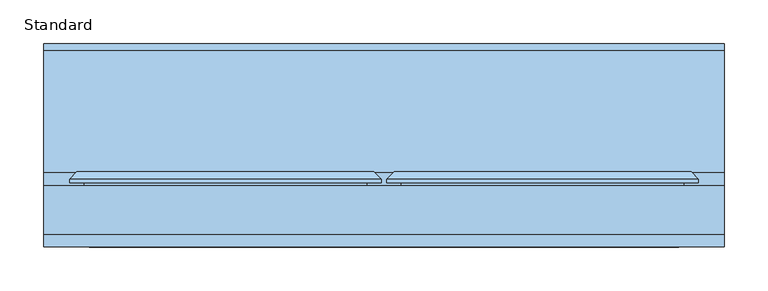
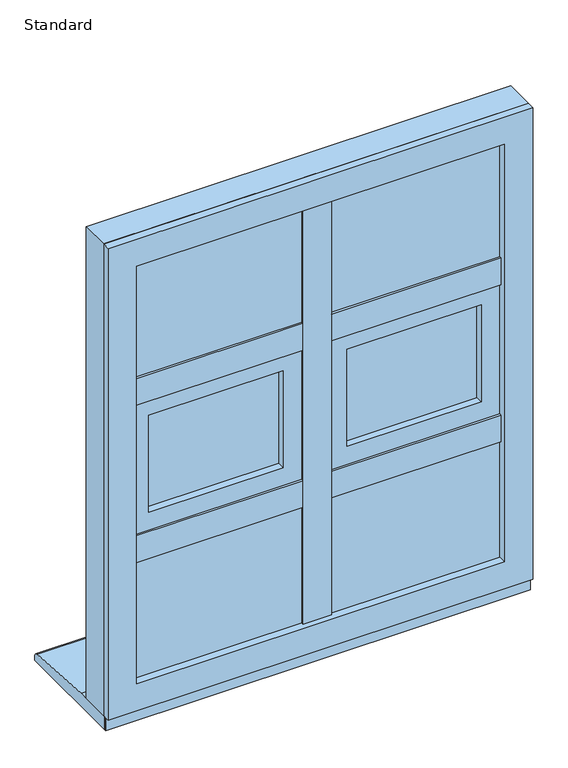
"""IFC4 building model written with IfcOpenShell, lengths in millimetres: window geometry, SMARTS_Alitherm600 : Standard."""

from ifc_helpers import new_model, si_unit, point, frame, frame_2d, origin, place, context, project, spatial, polyline, circle_curve, trimmed, segment, composite_curve, outline, extrude, faceted_brep, source, transform, mapped, element, save


def standard_ae2f9f8e(model_context):
    return source(origin(), model_context, "Body", "SolidModel", [
        extrude(outline(polyline([(-9.4, 102.8298432), (9.4, 102.8298432), (9.4, 47.2458572), (-9.4, 47.2458572), (-9.4, 102.8298432)])), frame((0.0, 0.0, 670.8979117), z_axis=(0.0, 0.0, 1.0), x_axis=(1.0, 0.0, 0.0)), (0.0, 0.0, 1.0), 843.2041766),
        extrude(outline(polyline([(-25.9020883, 47.2458572), (25.9020883, 47.2458572), (25.9020883, 43.2798432), (-25.9020883, 43.2798432), (-25.9020883, 47.2458572)])), frame((0.0, 0.0, 687.4), z_axis=(0.0, 0.0, 1.0), x_axis=(1.0, 0.0, 0.0)), (0.0, 0.0, 1.0), 810.2),
        extrude(outline(polyline([(-9.4979117, 102.8298432), (-9.4979117, 47.2458572), (-354.1020883, 47.2458572), (-354.1020883, 102.8298432), (-9.4979117, 102.8298432)])), frame((0.0, 0.0, 930.6), z_axis=(0.0, 0.0, 1.0), x_axis=(1.0, 0.0, 0.0)), (0.0, 0.0, 1.0), 18.8),
        extrude(outline(polyline([(-26.0, 47.2458572), (-26.0, 43.2798432), (-337.6, 43.2798432), (-337.6, 47.2458572), (-26.0, 47.2458572)])), frame((0.0, 0.0, 914.0979117), z_axis=(0.0, 0.0, 1.0), x_axis=(1.0, 0.0, 0.0)), (0.0, 0.0, 1.0), 51.8041766),
        extrude(outline(polyline([(-9.4979117, 102.8298432), (-9.4979117, 47.2458572), (-354.1020883, 47.2458572), (-354.1020883, 102.8298432), (-9.4979117, 102.8298432)])), frame((0.0, 0.0, 1235.6), z_axis=(0.0, 0.0, 1.0), x_axis=(1.0, 0.0, 0.0)), (0.0, 0.0, 1.0), 18.8),
        extrude(outline(polyline([(-26.0, 47.2458572), (-26.0, 43.2798432), (-337.6, 43.2798432), (-337.6, 47.2458572), (-26.0, 47.2458572)])), frame((0.0, 0.0, 1219.0979117), z_axis=(0.0, 0.0, 1.0), x_axis=(1.0, 0.0, 0.0)), (0.0, 0.0, 1.0), 51.8041766),
        extrude(outline(polyline([(354.1020883, 102.8298432), (354.1020883, 47.2458572), (9.4979117, 47.2458572), (9.4979117, 102.8298432), (354.1020883, 102.8298432)])), frame((0.0, 0.0, 930.6), z_axis=(0.0, 0.0, 1.0), x_axis=(1.0, 0.0, 0.0)), (0.0, 0.0, 1.0), 18.8),
        extrude(outline(polyline([(337.6, 47.2458572), (337.6, 43.2798432), (26.0, 43.2798432), (26.0, 47.2458572), (337.6, 47.2458572)])), frame((0.0, 0.0, 914.0979117), z_axis=(0.0, 0.0, 1.0), x_axis=(1.0, 0.0, 0.0)), (0.0, 0.0, 1.0), 51.8041766),
        extrude(outline(polyline([(354.1020883, 102.8298432), (354.1020883, 47.2458572), (9.4979117, 47.2458572), (9.4979117, 102.8298432), (354.1020883, 102.8298432)])), frame((0.0, 0.0, 1235.6), z_axis=(0.0, 0.0, 1.0), x_axis=(1.0, 0.0, 0.0)), (0.0, 0.0, 1.0), 18.8),
        extrude(outline(polyline([(337.6, 47.2458572), (337.6, 43.2798432), (26.0, 43.2798432), (26.0, 47.2458572), (337.6, 47.2458572)])), frame((0.0, 0.0, 1219.0979117), z_axis=(0.0, 0.0, 1.0), x_axis=(1.0, 0.0, 0.0)), (0.0, 0.0, 1.0), 51.8041766),
        extrude(outline(polyline([(-352.6, 77.7798432), (-11.0, 77.7798432), (-11.0, 73.7798432), (-352.6, 73.7798432), (-352.6, 77.7798432)])), frame((0.0, 0.0, 672.4), z_axis=(0.0, 0.0, 1.0), x_axis=(1.0, 0.0, 0.0)), (0.0, 0.0, 1.0), 256.6),
        extrude(outline(polyline([(-352.6, 57.7798432), (-11.0, 57.7798432), (-11.0, 53.7798432), (-352.6, 53.7798432), (-352.6, 57.7798432)])), frame((0.0, 0.0, 672.4), z_axis=(0.0, 0.0, 1.0), x_axis=(1.0, 0.0, 0.0)), (0.0, 0.0, 1.0), 256.6),
        extrude(outline(polyline([(929.0, -352.6), (672.4, -352.6), (672.4, -11.0), (929.0, -11.0), (929.0, -352.6)]), holes=[polyline([(919.0, -21.0), (682.4, -21.0), (682.4, -342.6), (919.0, -342.6), (919.0, -21.0)])]), frame((0.0, 57.7798432, 0.0), z_axis=(0.0, 1.0, 0.0), x_axis=(0.0, 0.0, 1.0)), (0.0, 0.0, 1.0), 16.0),
        faceted_brep([(-349.4160653, 102.7798432, 925.8160653), (-337.2339746, 81.6798432, 913.6339746), (-337.2339746, 81.6798432, 687.7660254), (-349.4160653, 102.7798432, 675.5839347), (-26.3660254, 81.6798432, 687.7660254), (-14.1839347, 102.7798432, 675.5839347), (-26.3660254, 81.6798432, 913.6339746), (-14.1839347, 102.7798432, 925.8160653), (-9.5, 81.6798432, 930.5), (-9.5, 102.7798432, 930.5), (-354.1, 102.7798432, 930.5), (-354.1, 81.6798432, 930.5), (-354.1, 102.7798432, 670.9), (-354.1, 81.6798432, 670.9), (-9.5, 102.7798432, 670.9), (-9.5, 81.6798432, 670.9)], [[[0, 1, 2, 3]], [[3, 2, 4, 5]], [[5, 4, 6, 7]], [[7, 6, 1, 0]], [[8, 9, 10, 11]], [[11, 10, 12, 13]], [[13, 12, 14, 15]], [[9, 14, 12, 10], [0, 3, 5, 7]], [[15, 14, 9, 8]], [[11, 13, 15, 8], [6, 4, 2, 1]]]),
        extrude(outline(polyline([(1198.0, -316.6), (987.0, -316.6), (987.0, -47.0), (1198.0, -47.0), (1198.0, -316.6)]), holes=[polyline([(1188.0, -57.0), (997.0, -57.0), (997.0, -306.6), (1188.0, -306.6), (1188.0, -57.0)])]), frame((0.0, 72.3211351, 0.0), z_axis=(0.0, 1.0, 0.0), x_axis=(0.0, 0.0, 1.0)), (0.0, 0.0, 1.0), 16.0),
        extrude(outline(polyline([(-316.6, 92.3211351), (-47.0, 92.3211351), (-47.0, 88.3211351), (-316.6, 88.3211351), (-316.6, 92.3211351)])), frame((0.0, 0.0, 987.0), z_axis=(0.0, 0.0, 1.0), x_axis=(1.0, 0.0, 0.0)), (0.0, 0.0, 1.0), 211.0),
        extrude(outline(polyline([(-316.6, 72.3211351), (-47.0, 72.3211351), (-47.0, 68.3211351), (-316.6, 68.3211351), (-316.6, 72.3211351)])), frame((0.0, 0.0, 987.0), z_axis=(0.0, 0.0, 1.0), x_axis=(1.0, 0.0, 0.0)), (0.0, 0.0, 1.0), 211.0),
        faceted_brep([(-46.6778853, 118.8818325, 1198.3221147), (-58.859976, 97.7818325, 1186.140024), (-304.740024, 97.7818325, 1186.140024), (-316.9221147, 118.8818325, 1198.3221147), (-41.9939506, 97.7818325, 1203.0060494), (-41.9939506, 118.8818325, 1203.0060494), (-321.6060494, 118.8818325, 1203.0060494), (-321.6060494, 97.7818325, 1203.0060494), (-304.740024, 97.7818325, 998.859976), (-316.9221147, 118.8818325, 986.6778853), (-321.6060494, 118.8818325, 981.9939506), (-321.6060494, 97.7818325, 981.9939506), (-58.859976, 97.7818325, 998.859976), (-46.6778853, 118.8818325, 986.6778853), (-41.9939506, 118.8818325, 981.9939506), (-41.9939506, 97.7818325, 981.9939506)], [[[0, 1, 2, 3]], [[4, 5, 6, 7]], [[3, 2, 8, 9]], [[7, 6, 10, 11]], [[9, 8, 12, 13]], [[11, 10, 14, 15]], [[13, 12, 1, 0]], [[5, 14, 10, 6], [3, 9, 13, 0]], [[15, 14, 5, 4]], [[7, 11, 15, 4], [1, 12, 8, 2]]]),
        extrude(outline(polyline([(960.152908, -343.447092), (960.152908, -20.152908), (1224.847092, -20.152908), (1224.847092, -343.447092), (960.152908, -343.447092)]), holes=[polyline([(1186.5, -305.1), (1186.5, -58.5), (998.5, -58.5), (998.5, -305.1), (1186.5, -305.1)])]), frame((0.0, 50.2798432, 0.0), z_axis=(0.0, 1.0, 0.0), x_axis=(0.0, 0.0, 1.0)), (0.0, 0.0, 1.0), 13.0853156),
        faceted_brep([(-321.6060494, 118.8818325, 1203.0060494), (-321.6060494, 63.3651588, 1203.0060494), (-321.6060494, 63.3651588, 981.9939506), (-321.6060494, 118.8818325, 981.9939506), (-41.9939506, 63.3651588, 981.9939506), (-41.9939506, 118.8818325, 981.9939506), (-41.9939506, 63.3651588, 1203.0060494), (-41.9939506, 118.8818325, 1203.0060494), (-360.3358988, 106.2818325, 1241.7358988), (-360.3358988, 110.3519831, 1241.7358988), (-360.3358988, 110.3519831, 943.2641012), (-360.3358988, 106.2818325, 943.2641012), (-3.2641012, 110.3519831, 943.2641012), (-3.2641012, 106.2818325, 943.2641012), (-3.2641012, 110.3519831, 1241.7358988), (-3.2641012, 106.2818325, 1241.7358988), (-343.7467657, 106.2818325, 1225.1467657), (-19.8532343, 106.2818325, 1225.1467657), (-19.8532343, 106.2818325, 959.8532343), (-343.7467657, 106.2818325, 959.8532343), (-351.8060494, 118.8818325, 1233.2060494), (-11.7939506, 118.8818325, 1233.2060494), (-11.7939506, 118.8818325, 951.7939506), (-351.8060494, 118.8818325, 951.7939506), (-343.7467657, 63.3651588, 1225.1467657), (-343.7467657, 63.3651588, 959.8532343), (-19.8532343, 63.3651588, 959.8532343), (-19.8532343, 63.3651588, 1225.1467657)], [[[0, 1, 2, 3]], [[3, 2, 4, 5]], [[5, 4, 6, 7]], [[7, 6, 1, 0]], [[8, 9, 10, 11]], [[11, 10, 12, 13]], [[13, 12, 14, 15]], [[11, 13, 15, 8], [16, 17, 18, 19]], [[15, 14, 9, 8]], [[20, 21, 22, 23], [3, 5, 7, 0]], [[24, 16, 19, 25]], [[25, 19, 18, 26]], [[26, 18, 17, 27]], [[25, 26, 27, 24], [1, 6, 4, 2]], [[27, 17, 16, 24]], [[9, 20, 23, 10]], [[10, 23, 22, 12]], [[12, 22, 21, 14]], [[14, 21, 20, 9]]]),
        extrude(outline(polyline([(-352.6, 77.7798432), (-11.0, 77.7798432), (-11.0, 73.7798432), (-352.6, 73.7798432), (-352.6, 77.7798432)])), frame((0.0, 0.0, 1256.0), z_axis=(0.0, 0.0, 1.0), x_axis=(1.0, 0.0, 0.0)), (0.0, 0.0, 1.0), 256.6),
        extrude(outline(polyline([(-352.6, 57.7798432), (-11.0, 57.7798432), (-11.0, 53.7798432), (-352.6, 53.7798432), (-352.6, 57.7798432)])), frame((0.0, 0.0, 1256.0), z_axis=(0.0, 0.0, 1.0), x_axis=(1.0, 0.0, 0.0)), (0.0, 0.0, 1.0), 256.6),
        extrude(outline(polyline([(1512.6, -352.6), (1256.0, -352.6), (1256.0, -11.0), (1512.6, -11.0), (1512.6, -352.6)]), holes=[polyline([(1502.6, -21.0), (1266.0, -21.0), (1266.0, -342.6), (1502.6, -342.6), (1502.6, -21.0)])]), frame((0.0, 57.7798432, 0.0), z_axis=(0.0, 1.0, 0.0), x_axis=(0.0, 0.0, 1.0)), (0.0, 0.0, 1.0), 16.0),
        faceted_brep([(-349.4160653, 102.7798432, 1509.4160653), (-337.2339746, 81.6798432, 1497.2339746), (-337.2339746, 81.6798432, 1271.3660254), (-349.4160653, 102.7798432, 1259.1839347), (-26.3660254, 81.6798432, 1271.3660254), (-14.1839347, 102.7798432, 1259.1839347), (-26.3660254, 81.6798432, 1497.2339746), (-14.1839347, 102.7798432, 1509.4160653), (-9.5, 81.6798432, 1514.1), (-9.5, 102.7798432, 1514.1), (-354.1, 102.7798432, 1514.1), (-354.1, 81.6798432, 1514.1), (-354.1, 102.7798432, 1254.5), (-354.1, 81.6798432, 1254.5), (-9.5, 102.7798432, 1254.5), (-9.5, 81.6798432, 1254.5)], [[[0, 1, 2, 3]], [[3, 2, 4, 5]], [[5, 4, 6, 7]], [[7, 6, 1, 0]], [[8, 9, 10, 11]], [[11, 10, 12, 13]], [[13, 12, 14, 15]], [[9, 14, 12, 10], [0, 3, 5, 7]], [[15, 14, 9, 8]], [[11, 13, 15, 8], [6, 4, 2, 1]]]),
        extrude(outline(polyline([(11.0, 77.7798432), (352.6, 77.7798432), (352.6, 73.7798432), (11.0, 73.7798432), (11.0, 77.7798432)])), frame((0.0, 0.0, 672.4), z_axis=(0.0, 0.0, 1.0), x_axis=(1.0, 0.0, 0.0)), (0.0, 0.0, 1.0), 256.6),
        extrude(outline(polyline([(11.0, 57.7798432), (352.6, 57.7798432), (352.6, 53.7798432), (11.0, 53.7798432), (11.0, 57.7798432)])), frame((0.0, 0.0, 672.4), z_axis=(0.0, 0.0, 1.0), x_axis=(1.0, 0.0, 0.0)), (0.0, 0.0, 1.0), 256.6),
        extrude(outline(polyline([(929.0, 11.0), (672.4, 11.0), (672.4, 352.6), (929.0, 352.6), (929.0, 11.0)]), holes=[polyline([(919.0, 342.6), (682.4, 342.6), (682.4, 21.0), (919.0, 21.0), (919.0, 342.6)])]), frame((0.0, 57.7798432, 0.0), z_axis=(0.0, 1.0, 0.0), x_axis=(0.0, 0.0, 1.0)), (0.0, 0.0, 1.0), 16.0),
        faceted_brep([(14.1839347, 102.7798432, 925.8160653), (26.3660254, 81.6798432, 913.6339746), (26.3660254, 81.6798432, 687.7660254), (14.1839347, 102.7798432, 675.5839347), (337.2339746, 81.6798432, 687.7660254), (349.4160653, 102.7798432, 675.5839347), (337.2339746, 81.6798432, 913.6339746), (349.4160653, 102.7798432, 925.8160653), (354.1, 81.6798432, 930.5), (354.1, 102.7798432, 930.5), (9.5, 102.7798432, 930.5), (9.5, 81.6798432, 930.5), (9.5, 102.7798432, 670.9), (9.5, 81.6798432, 670.9), (354.1, 102.7798432, 670.9), (354.1, 81.6798432, 670.9)], [[[0, 1, 2, 3]], [[3, 2, 4, 5]], [[5, 4, 6, 7]], [[7, 6, 1, 0]], [[8, 9, 10, 11]], [[11, 10, 12, 13]], [[13, 12, 14, 15]], [[9, 14, 12, 10], [0, 3, 5, 7]], [[15, 14, 9, 8]], [[11, 13, 15, 8], [6, 4, 2, 1]]]),
        extrude(outline(polyline([(1198.0, 47.0), (987.0, 47.0), (987.0, 316.6), (1198.0, 316.6), (1198.0, 47.0)]), holes=[polyline([(1188.0, 306.6), (997.0, 306.6), (997.0, 57.0), (1188.0, 57.0), (1188.0, 306.6)])]), frame((0.0, 72.3211351, 0.0), z_axis=(0.0, 1.0, 0.0), x_axis=(0.0, 0.0, 1.0)), (0.0, 0.0, 1.0), 16.0),
        extrude(outline(polyline([(47.0, 92.3211351), (316.6, 92.3211351), (316.6, 88.3211351), (47.0, 88.3211351), (47.0, 92.3211351)])), frame((0.0, 0.0, 987.0), z_axis=(0.0, 0.0, 1.0), x_axis=(1.0, 0.0, 0.0)), (0.0, 0.0, 1.0), 211.0),
        extrude(outline(polyline([(47.0, 72.3211351), (316.6, 72.3211351), (316.6, 68.3211351), (47.0, 68.3211351), (47.0, 72.3211351)])), frame((0.0, 0.0, 987.0), z_axis=(0.0, 0.0, 1.0), x_axis=(1.0, 0.0, 0.0)), (0.0, 0.0, 1.0), 211.0),
        faceted_brep([(316.9221147, 118.8818325, 1198.3221147), (304.740024, 97.7818325, 1186.140024), (58.859976, 97.7818325, 1186.140024), (46.6778853, 118.8818325, 1198.3221147), (321.6060494, 97.7818325, 1203.0060494), (321.6060494, 118.8818325, 1203.0060494), (41.9939506, 118.8818325, 1203.0060494), (41.9939506, 97.7818325, 1203.0060494), (58.859976, 97.7818325, 998.859976), (46.6778853, 118.8818325, 986.6778853), (41.9939506, 118.8818325, 981.9939506), (41.9939506, 97.7818325, 981.9939506), (304.740024, 97.7818325, 998.859976), (316.9221147, 118.8818325, 986.6778853), (321.6060494, 118.8818325, 981.9939506), (321.6060494, 97.7818325, 981.9939506)], [[[0, 1, 2, 3]], [[4, 5, 6, 7]], [[3, 2, 8, 9]], [[7, 6, 10, 11]], [[9, 8, 12, 13]], [[11, 10, 14, 15]], [[13, 12, 1, 0]], [[5, 14, 10, 6], [3, 9, 13, 0]], [[15, 14, 5, 4]], [[7, 11, 15, 4], [1, 12, 8, 2]]]),
        extrude(outline(polyline([(960.152908, 20.152908), (960.152908, 343.447092), (1224.847092, 343.447092), (1224.847092, 20.152908), (960.152908, 20.152908)]), holes=[polyline([(1186.5, 58.5), (1186.5, 305.1), (998.5, 305.1), (998.5, 58.5), (1186.5, 58.5)])]), frame((0.0, 50.2798432, 0.0), z_axis=(0.0, 1.0, 0.0), x_axis=(0.0, 0.0, 1.0)), (0.0, 0.0, 1.0), 13.0853156),
        faceted_brep([(41.9939506, 118.8818325, 1203.0060494), (41.9939506, 63.3651588, 1203.0060494), (41.9939506, 63.3651588, 981.9939506), (41.9939506, 118.8818325, 981.9939506), (321.6060494, 63.3651588, 981.9939506), (321.6060494, 118.8818325, 981.9939506), (321.6060494, 63.3651588, 1203.0060494), (321.6060494, 118.8818325, 1203.0060494), (3.2641012, 106.2818325, 1241.7358988), (3.2641012, 110.3519831, 1241.7358988), (3.2641012, 110.3519831, 943.2641012), (3.2641012, 106.2818325, 943.2641012), (360.3358988, 110.3519831, 943.2641012), (360.3358988, 106.2818325, 943.2641012), (360.3358988, 110.3519831, 1241.7358988), (360.3358988, 106.2818325, 1241.7358988), (19.8532343, 106.2818325, 1225.1467657), (343.7467657, 106.2818325, 1225.1467657), (343.7467657, 106.2818325, 959.8532343), (19.8532343, 106.2818325, 959.8532343), (11.7939506, 118.8818325, 1233.2060494), (351.8060494, 118.8818325, 1233.2060494), (351.8060494, 118.8818325, 951.7939506), (11.7939506, 118.8818325, 951.7939506), (19.8532343, 63.3651588, 1225.1467657), (19.8532343, 63.3651588, 959.8532343), (343.7467657, 63.3651588, 959.8532343), (343.7467657, 63.3651588, 1225.1467657)], [[[0, 1, 2, 3]], [[3, 2, 4, 5]], [[5, 4, 6, 7]], [[7, 6, 1, 0]], [[8, 9, 10, 11]], [[11, 10, 12, 13]], [[13, 12, 14, 15]], [[11, 13, 15, 8], [16, 17, 18, 19]], [[15, 14, 9, 8]], [[20, 21, 22, 23], [3, 5, 7, 0]], [[24, 16, 19, 25]], [[25, 19, 18, 26]], [[26, 18, 17, 27]], [[25, 26, 27, 24], [1, 6, 4, 2]], [[27, 17, 16, 24]], [[9, 20, 23, 10]], [[10, 23, 22, 12]], [[12, 22, 21, 14]], [[14, 21, 20, 9]]]),
        extrude(outline(polyline([(1550.0, 390.0), (1550.0, -390.0), (635.0, -390.0), (635.0, 390.0), (1550.0, 390.0)]), holes=[polyline([(670.85, 354.15), (670.85, -354.15), (1514.15, -354.15), (1514.15, 354.15), (670.85, 354.15)])]), frame((0.0, 47.2798427, 0.0), z_axis=(0.0, 1.0, 0.0), x_axis=(0.0, 0.0, 1.0)), (0.0, 0.0, 1.0), 55.5500006),
        extrude(outline(polyline([(1550.0, 390.0), (1550.0, -390.0), (635.0, -390.0), (635.0, 390.0), (1550.0, 390.0)]), holes=[polyline([(687.35, 337.65), (687.35, -337.65), (1497.65, -337.65), (1497.65, 337.65), (687.35, 337.65)])]), frame((0.0, 32.8298432, 0.0), z_axis=(0.0, 1.0, 0.0), x_axis=(0.0, 0.0, 1.0)), (0.0, 0.0, 1.0), 14.4499994),
        extrude(outline(polyline([(11.0, 77.7798432), (352.6, 77.7798432), (352.6, 73.7798432), (11.0, 73.7798432), (11.0, 77.7798432)])), frame((0.0, 0.0, 1256.0), z_axis=(0.0, 0.0, 1.0), x_axis=(1.0, 0.0, 0.0)), (0.0, 0.0, 1.0), 256.6),
        extrude(outline(polyline([(11.0, 57.7798432), (352.6, 57.7798432), (352.6, 53.7798432), (11.0, 53.7798432), (11.0, 57.7798432)])), frame((0.0, 0.0, 1256.0), z_axis=(0.0, 0.0, 1.0), x_axis=(1.0, 0.0, 0.0)), (0.0, 0.0, 1.0), 256.6),
        extrude(outline(polyline([(1512.6, 11.0), (1256.0, 11.0), (1256.0, 352.6), (1512.6, 352.6), (1512.6, 11.0)]), holes=[polyline([(1502.6, 342.6), (1266.0, 342.6), (1266.0, 21.0), (1502.6, 21.0), (1502.6, 342.6)])]), frame((0.0, 57.7798432, 0.0), z_axis=(0.0, 1.0, 0.0), x_axis=(0.0, 0.0, 1.0)), (0.0, 0.0, 1.0), 16.0),
        faceted_brep([(14.1839347, 102.7798432, 1509.4160653), (26.3660254, 81.6798432, 1497.2339746), (26.3660254, 81.6798432, 1271.3660254), (14.1839347, 102.7798432, 1259.1839347), (337.2339746, 81.6798432, 1271.3660254), (349.4160653, 102.7798432, 1259.1839347), (337.2339746, 81.6798432, 1497.2339746), (349.4160653, 102.7798432, 1509.4160653), (354.1, 81.6798432, 1514.1), (354.1, 102.7798432, 1514.1), (9.5, 102.7798432, 1514.1), (9.5, 81.6798432, 1514.1), (9.5, 102.7798432, 1254.5), (9.5, 81.6798432, 1254.5), (354.1, 102.7798432, 1254.5), (354.1, 81.6798432, 1254.5)], [[[0, 1, 2, 3]], [[3, 2, 4, 5]], [[5, 4, 6, 7]], [[7, 6, 1, 0]], [[8, 9, 10, 11]], [[11, 10, 12, 13]], [[13, 12, 14, 15]], [[9, 14, 12, 10], [0, 3, 5, 7]], [[15, 14, 9, 8]], [[11, 13, 15, 8], [6, 4, 2, 1]]]),
        extrude(outline(polyline([(390.0, 43.2798432), (390.0, 40.7798432), (-390.0, 40.7798432), (-390.0, 43.2798432), (390.0, 43.2798432)])), frame((0.0, 0.0, 610.0), z_axis=(0.0, 0.0, 1.0), x_axis=(1.0, 0.0, 0.0)), (0.0, 0.0, 1.0), 31.0),
        extrude(outline(composite_curve([segment(polyline([(265.7798432, 610.0), (43.2798432, 610.0), (43.2798432, 635.0), (118.7798432, 635.0), (258.4770891, 625.9276664)]), True, "CONTINUOUS"), segment(trimmed(circle_curve(frame_2d((257.7798432, 617.9581088)), 8.0), [point((258.4770891, 625.9276664))], [point((265.7798432, 617.9581088))], False, "CARTESIAN"), True, "CONTINUOUS"), segment(polyline([(265.7798432, 617.9581088), (265.7798432, 610.0)]), True, "CONTINUOUS")], self_intersect=False)), frame((-390.0, 0.0, 0.0), z_axis=(1.0, 0.0, 0.0), x_axis=(0.0, 1.0, 0.0)), (0.0, 0.0, 1.0), 780.0),
    ])


if __name__ == "__main__":
    model = new_model("IFC4")
    model_context = context("Model", 3, world=origin())
    ifc_project = project(units=[si_unit("LENGTHUNIT", "METRE", prefix="MILLI")], contexts=[model_context])
    site = spatial("IfcSite", under=ifc_project)
    building = spatial("IfcBuilding", under=site)
    placement = place(None, origin())
    standard_shape = standard_ae2f9f8e(model_context)
    element("IfcWindow", 1, ObjectType="SMARTS_Alitherm600 : Standard", at=placement, inside=building, context=model_context, shape_type="MappedRepresentation", body=[
        mapped(standard_shape, transform((0.0, 0.0, 0.0), x_axis=(1.0, 0.0, 0.0), y_axis=(0.0, 1.0, 0.0), z_axis=(0.0, 0.0, 1.0))),
    ])
    save(model, "model.ifc")
